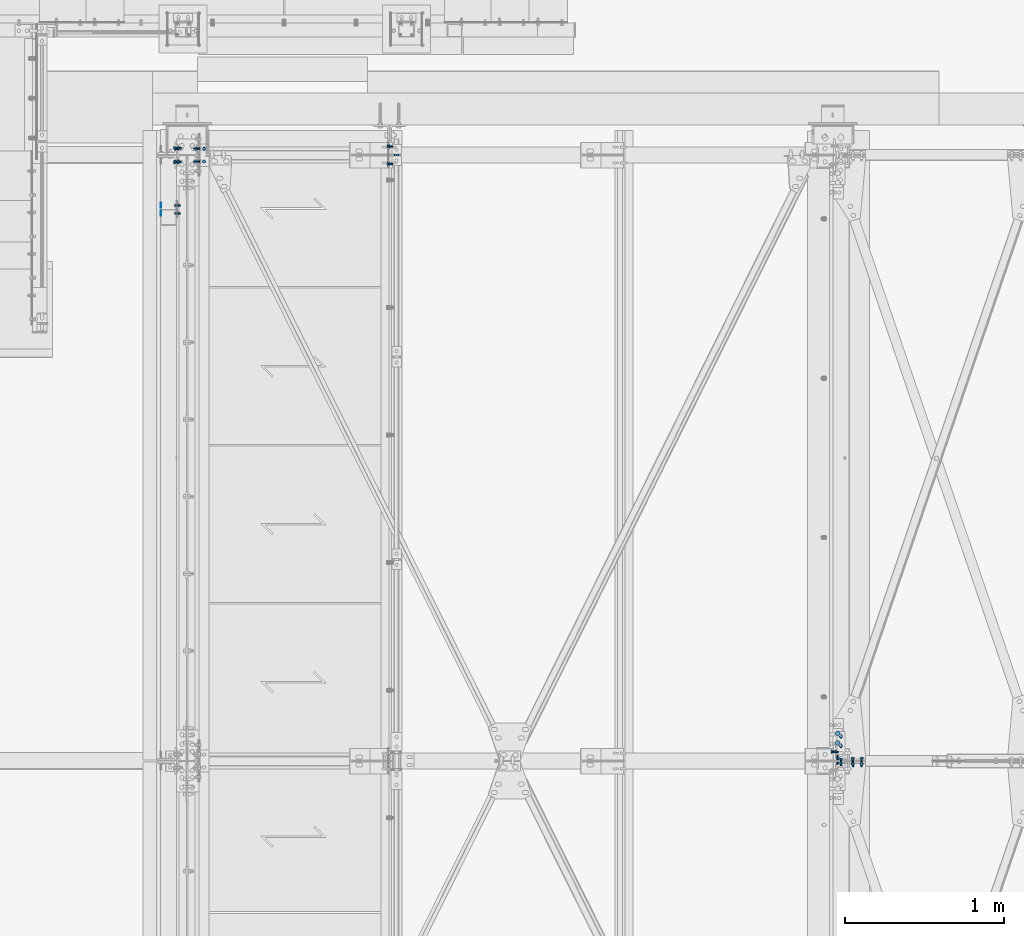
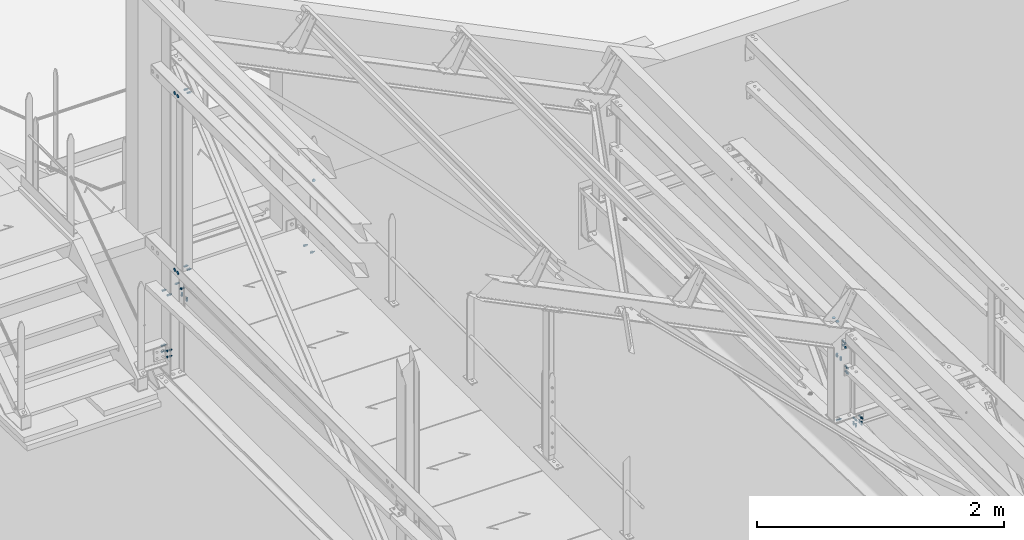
# One storey, part 334 of 362: 24 mechanical fasteners.
"""IFC2X3 building model written with IfcOpenShell, lengths in millimetres."""

from ifc_helpers import new_model, si_unit, frame, frame_2d, origin_with_axes, origin_2d_with_axis, place, context, subcontext, project, spatial, polyline, circle_curve, parameter, trimmed, segment, composite_curve, circle, outline, extrude, source, transform, mapped, material, type_object, element, save


model = new_model("IFC2X3")

# Units and contexts
model_context = context("Model", 3, precision=1e-05, world=origin_with_axes())
body_context = subcontext(model_context, "Body", "Model", "MODEL_VIEW")
ifc_project = project(units=[si_unit("LENGTHUNIT", "METRE", prefix="MILLI"), si_unit("AREAUNIT", "SQUARE_METRE"), si_unit("VOLUMEUNIT", "CUBIC_METRE"), si_unit("MASSUNIT", "GRAM", prefix="KILO"), si_unit("TIMEUNIT", "SECOND"), si_unit("PLANEANGLEUNIT", "RADIAN"), si_unit("SOLIDANGLEUNIT", "STERADIAN"), si_unit("THERMODYNAMICTEMPERATUREUNIT", "DEGREE_CELSIUS"), si_unit("LUMINOUSINTENSITYUNIT", "LUMEN")], contexts=[model_context])

# Site, building, storey
site_placement = place(None, origin_with_axes())
site = spatial("IfcSite", under=ifc_project, at=site_placement, Name="Undefined", CompositionType="ELEMENT")
building_placement = place(site_placement, origin_with_axes())
building = spatial("IfcBuilding", under=site, at=building_placement, Name="Undefined", CompositionType="ELEMENT")
storey_placement = place(building_placement, origin_with_axes())
storey = spatial("IfcBuildingStorey", under=building, at=storey_placement, Name="Undefined", CompositionType="ELEMENT", Elevation=0.0)

# Mechanical fasteners
ifc_material_1 = material(Name="6.8")
mechanical_fastener_type = type_object("IfcMechanicalFastenerType", Name="Bolt assembly")
shared_shape_1 = source(origin_with_axes(), body_context, "Body", "SweptSolid", [
    extrude(circle(Radius=15.0, at=origin_2d_with_axis()), frame((0.0, 0.0, 0.0), z_axis=(0.0, 1.0, 0.0), x_axis=(1.0, 0.0, 0.0)), (0.0, 0.0, 1.0), 4.1),
])
mechanical_fastener_1_placement = place(storey_placement, frame((38360.0, 11573.5, 8550.0), z_axis=(1.0, 0.0, 0.0), x_axis=(0.0, -1.0, 0.0)))
element("IfcMechanicalFastener", 1, at=mechanical_fastener_1_placement, inside=storey, type_object=mechanical_fastener_type, material=ifc_material_1, Name="Bolt assembly", NominalDiameter=30.0, NominalLength=4.0, context=body_context, shape_type="MappedRepresentation", body=[
    mapped(shared_shape_1, transform((0.0, 0.0, 0.0))),
    mapped(shared_shape_1, transform((60.0, 0.0, 0.0))),
])
mechanical_fastener_2_placement = place(storey_placement, frame((34113.4999999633, 14859.9999987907, 10245.0), z_axis=(0.0, -1.0, 0.0), x_axis=(0.0, 0.0, -1.0)))
element("IfcMechanicalFastener", 2, at=mechanical_fastener_2_placement, inside=storey, type_object=mechanical_fastener_type, material=ifc_material_1, Name="Bolt assembly", NominalDiameter=30.0, NominalLength=4.0, context=body_context, shape_type="MappedRepresentation", body=[
    mapped(shared_shape_1, transform((0.0, 0.0, -25.0))),
    mapped(shared_shape_1, transform((0.0, 0.0, 25.0))),
])
shared_shape_2 = source(origin_with_axes(), body_context, "Body", "SweptSolid", [
    extrude(circle(Radius=14.0, at=origin_2d_with_axis()), frame((0.0, -5.00000000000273, 0.0), z_axis=(0.0, 1.0, 0.0), x_axis=(1.0, 0.0, 0.0)), (0.0, 0.0, 1.0), 10.1),
])
mechanical_fastener_3_placement = place(storey_placement, frame((35593.9917225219, 15200.0000005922, 8673.79999656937), z_axis=(0.0, 0.0, 1.0), x_axis=(-1.0, 0.0, 0.0)))
element("IfcMechanicalFastener", 3, at=mechanical_fastener_3_placement, inside=storey, type_object=mechanical_fastener_type, material=ifc_material_1, Name="Bolt assembly", NominalDiameter=27.0, NominalLength=10.0, context=body_context, shape_type="MappedRepresentation", body=[
    mapped(shared_shape_2, transform((0.0, 0.0, 0.0))),
])
ifc_material_2 = material(Name="8.8-SB-ZINGUE")
shared_shape_3 = source(origin_with_axes(), body_context, "Body", "SweptSolid", [
    extrude(circle(Radius=7.0, at=origin_2d_with_axis()), frame((0.0, -4.90000000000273, 0.0), z_axis=(0.0, 1.0, 0.0), x_axis=(1.0, 0.0, 0.0)), (0.0, 0.0, 1.0), 5.0),
    extrude(circle(Radius=7.0, at=origin_2d_with_axis()), frame((0.0, -0.100011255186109, 0.0), z_axis=(0.0, 1.0, 0.0), x_axis=(1.0, 0.0, 0.0)), (0.0, 0.0, 1.0), 7.1),
    extrude(outline(polyline([(10.39230484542, 0.0), (5.19615242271, 9.00000000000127), (-5.19615242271, 9.00000000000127), (-10.39230484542, 0.0), (-5.19615242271, -9.00000000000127), (5.19615242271, -9.00000000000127), (10.39230484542, 0.0)])), frame((0.0, -12.9200004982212, 0.0), z_axis=(0.0, 1.0, 0.0), x_axis=(1.0, 0.0, 0.0)), (0.0, 0.0, 1.0), 7.92),
    extrude(circle(Radius=6.0, at=origin_2d_with_axis()), frame((0.0, -5.00000000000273, 0.0), z_axis=(0.0, 1.0, 0.0), x_axis=(1.0, 0.0, 0.0)), (0.0, 0.0, 1.0), 30.0),
    extrude(outline(polyline([(11.5008173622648, 0.0), (5.7504086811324, 9.96000000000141), (-5.7504086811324, 9.96000000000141), (-11.5008173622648, 0.0), (-5.7504086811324, -9.96000000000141), (5.7504086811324, -9.96000000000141), (11.5008173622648, 0.0)])), frame((0.0, 7.0, 0.0), z_axis=(0.0, 1.0, 0.0), x_axis=(1.0, 0.0, 0.0)), (0.0, 0.0, 1.0), 7.92),
])
for number, where, z_axis, x_axis, name in (
    (4, (34386.5000576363, 15240.0000000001, 7949.99999999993), (0.0, -1.0, 0.0), (-1.0, 0.0, 0.0), "Bolt assembly"),
    (5, (34386.5000576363, 15160.0, 7949.99999999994), (0.0, -1.0, 0.0), (-1.0, 0.0, 0.0), "Bolt assembly"),
):
    element("IfcMechanicalFastener", number, at=place(storey_placement, frame(where, z_axis=z_axis, x_axis=x_axis)), inside=storey, type_object=mechanical_fastener_type, material=ifc_material_2, Name=name, NominalDiameter=12.0, NominalLength=30.0, context=body_context, shape_type="MappedRepresentation", body=[
        mapped(shared_shape_3, transform((0.0, 0.0, 0.0))),
    ])
shared_shape_4 = source(origin_with_axes(), body_context, "Body", "SweptSolid", [
    extrude(circle(Radius=7.0, at=origin_2d_with_axis()), frame((0.0, -6.5, 0.0), z_axis=(0.0, 1.0, 0.0), x_axis=(1.0, 0.0, 0.0)), (0.0, 0.0, 1.0), 6.1),
    extrude(outline(polyline([(10.39230484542, 0.0), (5.19615242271, 9.00000000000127), (-5.19615242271, 9.00000000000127), (-10.39230484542, 0.0), (-5.19615242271, -9.00000000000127), (5.19615242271, -9.00000000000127), (10.39230484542, 0.0)])), frame((0.0, -14.42, 0.0), z_axis=(0.0, 1.0, 0.0), x_axis=(1.0, 0.0, 0.0)), (0.0, 0.0, 1.0), 7.92),
    extrude(circle(Radius=6.0, at=origin_2d_with_axis()), frame((0.0, -6.5, 0.0), z_axis=(0.0, 1.0, 0.0), x_axis=(1.0, 0.0, 0.0)), (0.0, 0.0, 1.0), 30.0),
    extrude(outline(polyline([(11.5008173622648, 0.0), (5.7504086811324, 9.96000000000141), (-5.7504086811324, 9.96000000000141), (-11.5008173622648, 0.0), (-5.7504086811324, -9.96000000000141), (5.7504086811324, -9.96000000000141), (11.5008173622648, 0.0)])), frame((0.0, -0.5, 0.0), z_axis=(0.0, 1.0, 0.0), x_axis=(1.0, 0.0, 0.0)), (0.0, 0.0, 1.0), 7.92),
])
for number, where, z_axis, x_axis, name in (
    (6, (35546.4917140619, 15254.9999906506, 8014.99999999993), (0.0, 0.0, 1.0), (0.0, -1.0, 0.0), "Bolt assembly"),
    (7, (35546.4917140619, 15144.9999999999, 8014.99999999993), (0.0, 0.0, -1.0), (0.0, 1.0, 0.0), "Bolt assembly"),
):
    element("IfcMechanicalFastener", number, at=place(storey_placement, frame(where, z_axis=z_axis, x_axis=x_axis)), inside=storey, type_object=mechanical_fastener_type, material=ifc_material_2, Name=name, NominalDiameter=12.0, NominalLength=30.0, context=body_context, shape_type="MappedRepresentation", body=[
        mapped(shared_shape_4, transform((0.0, 0.0, 0.0))),
    ])
shared_shape_5 = source(origin_with_axes(), body_context, "Body", "SweptSolid", [
    extrude(circle(Radius=7.0, at=origin_2d_with_axis()), frame((0.0, -0.0999426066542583, 0.0), z_axis=(0.0, 1.0, 0.0), x_axis=(1.0, 0.0, 0.0)), (0.0, 0.0, 1.0), 8.6),
    extrude(circle(Radius=7.0, at=origin_2d_with_axis()), frame((0.0, -4.8997748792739, 0.0), z_axis=(0.0, 1.0, 0.0), x_axis=(1.0, 0.0, 0.0)), (0.0, 0.0, 1.0), 5.0),
    extrude(outline(polyline([(10.39230484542, 0.0), (5.19615242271, 9.00000000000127), (-5.19615242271, 9.00000000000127), (-10.39230484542, 0.0), (-5.19615242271, -9.00000000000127), (5.19615242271, -9.00000000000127), (10.39230484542, 0.0)])), frame((0.0, -12.9197748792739, 0.0), z_axis=(0.0, 1.0, 0.0), x_axis=(1.0, 0.0, 0.0)), (0.0, 0.0, 1.0), 7.92),
    extrude(circle(Radius=6.0, at=origin_2d_with_axis()), frame((0.0, -4.9997748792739, 0.0), z_axis=(0.0, 1.0, 0.0), x_axis=(1.0, 0.0, 0.0)), (0.0, 0.0, 1.0), 30.0),
    extrude(outline(polyline([(11.5008173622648, 0.0), (5.7504086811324, 9.96000000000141), (-5.7504086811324, 9.96000000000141), (-11.5008173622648, 0.0), (-5.7504086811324, -9.96000000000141), (5.7504086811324, -9.96000000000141), (11.5008173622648, 0.0)])), frame((0.0, 8.50005763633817, 0.0), z_axis=(0.0, 1.0, 0.0), x_axis=(1.0, 0.0, 0.0)), (0.0, 0.0, 1.0), 7.92),
])
for number, where, z_axis, x_axis, name in (
    (8, (34346.5000576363, 15160.0000009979, 8069.99999999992), (0.0, 1.0, 0.0), (0.0, 0.0, -1.0), "Bolt assembly"),
    (9, (34346.5000576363, 15240.000000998, 8069.99999999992), (0.0, 1.0, 0.0), (0.0, 0.0, -1.0), "Bolt assembly"),
):
    element("IfcMechanicalFastener", number, at=place(storey_placement, frame(where, z_axis=z_axis, x_axis=x_axis)), inside=storey, type_object=mechanical_fastener_type, material=ifc_material_2, Name=name, NominalDiameter=12.0, NominalLength=30.0, context=body_context, shape_type="MappedRepresentation", body=[
        mapped(shared_shape_5, transform((0.0, 0.0, 0.0))),
    ])
shared_shape_6 = source(origin_with_axes(), body_context, "Body", "SweptSolid", [
    extrude(circle(Radius=7.0, at=origin_2d_with_axis()), frame((0.0, -3.90012822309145, 0.0), z_axis=(0.0, 1.0, 0.0), x_axis=(1.0, 0.0, 0.0)), (0.0, 0.0, 1.0), 4.0),
    extrude(outline(composite_curve([segment(polyline([(-7.0, 7.0), (7.0, 7.0)]), True, "CONTINUOUS"), segment(trimmed(circle_curve(frame_2d((7.0, 0.0), x_axis=(0.0, 1.0)), 7.0), [parameter(0.0)], [parameter(3.14159265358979)], False, "PARAMETER"), True, "CONTINUOUS"), segment(polyline([(7.0, -7.0), (-7.0, -7.0)]), True, "CONTINUOUS"), segment(trimmed(circle_curve(frame_2d((-7.0, 0.0), x_axis=(0.0, -1.0)), 7.0), [parameter(0.0)], [parameter(3.14159265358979)], False, "PARAMETER"), True, "DISCONTINUOUS")], self_intersect=False)), frame((0.0, -0.100011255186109, 0.0), z_axis=(0.0, 1.0, 0.0), x_axis=(1.0, 0.0, 0.0)), (0.0, 0.0, 1.0), 6.1),
    extrude(outline(polyline([(10.39230484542, 0.0), (5.19615242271, 9.00000000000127), (-5.19615242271, 9.00000000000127), (-10.39230484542, 0.0), (-5.19615242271, -9.00000000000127), (5.19615242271, -9.00000000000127), (10.39230484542, 0.0)])), frame((0.0, -11.9201282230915, 0.0), z_axis=(0.0, 1.0, 0.0), x_axis=(1.0, 0.0, 0.0)), (0.0, 0.0, 1.0), 7.92),
    extrude(circle(Radius=6.0, at=origin_2d_with_axis()), frame((0.0, -4.00012822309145, 0.0), z_axis=(0.0, 1.0, 0.0), x_axis=(1.0, 0.0, 0.0)), (0.0, 0.0, 1.0), 30.0),
    extrude(circle(Radius=10.8, at=origin_2d_with_axis()), frame((0.0, 6.0, 0.0), z_axis=(0.0, 1.0, 0.0), x_axis=(1.0, 0.0, 0.0)), (0.0, 0.0, 1.0), 3.96),
    extrude(outline(polyline([(11.5008173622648, 0.0), (5.7504086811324, 9.96000000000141), (-5.7504086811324, 9.96000000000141), (-11.5008173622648, 0.0), (-5.7504086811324, -9.96000000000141), (5.7504086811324, -9.96000000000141), (11.5008173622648, 0.0)])), frame((0.0, 9.9600084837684, 0.0), z_axis=(0.0, 1.0, 0.0), x_axis=(1.0, 0.0, 0.0)), (0.0, 0.0, 1.0), 7.92),
])
mechanical_fastener_4_placement = place(storey_placement, frame((38380.0, 11554.9555719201, 8188.12886622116), z_axis=(1.0, 0.0, 0.0), x_axis=(0.0, -0.999506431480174, 0.0314148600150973)))
element("IfcMechanicalFastener", 10, at=mechanical_fastener_4_placement, inside=storey, type_object=mechanical_fastener_type, material=ifc_material_2, Name="Bolt assembly", NominalDiameter=12.0, NominalLength=30.0, context=body_context, shape_type="MappedRepresentation", body=[
    mapped(shared_shape_6, transform((0.0, 0.0, 0.0))),
    mapped(shared_shape_6, transform((60.0, 0.0, 0.0))),
])
shared_shape_7 = source(origin_with_axes(), body_context, "Body", "SweptSolid", [
    extrude(circle(Radius=7.0, at=origin_2d_with_axis()), frame((0.0, -2.7999999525, 0.0), z_axis=(0.0, 1.0, 0.0), x_axis=(1.0, 0.0, 0.0)), (0.0, 0.0, 1.0), 5.6),
    extrude(circle(Radius=7.0, at=origin_2d_with_axis()), frame((0.0, -9.40000000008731, 0.0), z_axis=(0.0, 1.0, 0.0), x_axis=(1.0, 0.0, 0.0)), (0.0, 0.0, 1.0), 6.0),
    extrude(circle(Radius=7.0, at=origin_2d_with_axis()), frame((0.0, 3.40000111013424, 0.0), z_axis=(0.0, 1.0, 0.0), x_axis=(1.0, 0.0, 0.0)), (0.0, 0.0, 1.0), 6.1),
    extrude(outline(polyline([(10.39230484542, 0.0), (5.19615242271, 9.00000000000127), (-5.19615242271, 9.00000000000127), (-10.39230484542, 0.0), (-5.19615242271, -9.00000000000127), (5.19615242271, -9.00000000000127), (10.39230484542, 0.0)])), frame((0.0, -17.4200000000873, 0.0), z_axis=(0.0, 1.0, 0.0), x_axis=(1.0, 0.0, 0.0)), (0.0, 0.0, 1.0), 7.92),
    extrude(circle(Radius=6.0, at=origin_2d_with_axis()), frame((0.0, -9.50000000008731, 0.0), z_axis=(0.0, 1.0, 0.0), x_axis=(1.0, 0.0, 0.0)), (0.0, 0.0, 1.0), 40.0),
    extrude(outline(polyline([(11.5008173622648, 0.0), (5.7504086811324, 9.96000000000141), (-5.7504086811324, 9.96000000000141), (-11.5008173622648, 0.0), (-5.7504086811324, -9.96000000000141), (5.7504086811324, -9.96000000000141), (11.5008173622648, 0.0)])), frame((0.0, 9.50000815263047, 0.0), z_axis=(0.0, 1.0, 0.0), x_axis=(1.0, 0.0, 0.0)), (0.0, 0.0, 1.0), 7.92),
])
mechanical_fastener_5_placement = place(storey_placement, frame((38380.0000000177, 11400.0, 8107.99910819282), z_axis=(1.0, 0.0, 0.0), x_axis=(0.0, 0.0, 1.0)))
element("IfcMechanicalFastener", 11, at=mechanical_fastener_5_placement, inside=storey, type_object=mechanical_fastener_type, material=ifc_material_2, Name="Bolt assembly", NominalDiameter=12.0, NominalLength=40.0, context=body_context, shape_type="MappedRepresentation", body=[
    mapped(shared_shape_7, transform((0.0, 0.0, 0.0))),
    mapped(shared_shape_7, transform((49.9999999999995, 0.0, -3.63797880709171e-12))),
])
shared_shape_8 = source(origin_with_axes(), body_context, "Body", "SweptSolid", [
    extrude(circle(Radius=7.0, at=origin_2d_with_axis()), frame((0.0, -2.80010483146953, 0.0), z_axis=(0.0, 1.0, 0.0), x_axis=(1.0, 0.0, 0.0)), (0.0, 0.0, 1.0), 5.6),
    extrude(circle(Radius=7.0, at=origin_2d_with_axis()), frame((0.0, 3.3998951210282, 0.0), z_axis=(0.0, 1.0, 0.0), x_axis=(1.0, 0.0, 0.0)), (0.0, 0.0, 1.0), 10.1),
    extrude(circle(Radius=7.0, at=origin_2d_with_axis()), frame((0.0, -13.4001048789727, 0.0), z_axis=(0.0, 1.0, 0.0), x_axis=(1.0, 0.0, 0.0)), (0.0, 0.0, 1.0), 10.0),
    extrude(outline(polyline([(10.39230484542, 0.0), (5.19615242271, 9.00000000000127), (-5.19615242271, 9.00000000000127), (-10.39230484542, 0.0), (-5.19615242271, -9.00000000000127), (5.19615242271, -9.00000000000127), (10.39230484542, 0.0)])), frame((0.0, -21.4201048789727, 0.0), z_axis=(0.0, 1.0, 0.0), x_axis=(1.0, 0.0, 0.0)), (0.0, 0.0, 1.0), 7.92),
    extrude(circle(Radius=6.0, at=origin_2d_with_axis()), frame((0.0, -13.5000574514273, 0.0), z_axis=(0.0, 1.0, 0.0), x_axis=(1.0, 0.0, 0.0)), (0.0, 0.0, 1.0), 50.0),
    extrude(outline(polyline([(11.5008173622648, 0.0), (5.7504086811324, 9.96000000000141), (-5.7504086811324, 9.96000000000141), (-11.5008173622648, 0.0), (-5.7504086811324, -9.96000000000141), (5.7504086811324, -9.96000000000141), (11.5008173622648, 0.0)])), frame((0.0, 13.4998951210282, 0.0), z_axis=(0.0, 1.0, 0.0), x_axis=(1.0, 0.0, 0.0)), (0.0, 0.0, 1.0), 7.92),
])
mechanical_fastener_6_placement = place(storey_placement, frame((38360.0, 11400.000104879, 8370.0), z_axis=(-1.0, 0.0, 0.0), x_axis=(0.0, 0.0, 1.0)))
element("IfcMechanicalFastener", 12, at=mechanical_fastener_6_placement, inside=storey, type_object=mechanical_fastener_type, material=ifc_material_2, Name="Bolt assembly", NominalDiameter=12.0, NominalLength=50.0, context=body_context, shape_type="MappedRepresentation", body=[
    mapped(shared_shape_8, transform((0.0, 0.0, 0.0))),
    mapped(shared_shape_8, transform((40.0, 0.0, 0.0))),
])
shared_shape_9 = source(origin_with_axes(), body_context, "Body", "SweptSolid", [
    extrude(circle(Radius=15.0, at=origin_2d_with_axis()), frame((0.0, -0.000130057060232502, 0.0), z_axis=(0.0, 1.0, 0.0), x_axis=(1.0, 0.0, 0.0)), (0.0, 0.0, 1.0), 4.1),
])
mechanical_fastener_7_placement = place(storey_placement, frame((34113.5001162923, 14859.9999987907, 8500.0), z_axis=(0.0, 1.0, 0.0), x_axis=(0.0, 0.0, 1.0)))
element("IfcMechanicalFastener", 13, at=mechanical_fastener_7_placement, inside=storey, type_object=mechanical_fastener_type, material=ifc_material_1, Name="Bolt assembly", NominalDiameter=30.0, NominalLength=4.0, context=body_context, shape_type="MappedRepresentation", body=[
    mapped(shared_shape_9, transform((0.0, 0.0, -25.0))),
    mapped(shared_shape_9, transform((0.0, 0.0, 25.0))),
])
shared_shape_10 = source(origin_with_axes(), body_context, "Body", "SweptSolid", [
    extrude(circle(Radius=7.0, at=origin_2d_with_axis()), frame((0.0, -0.10007666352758, 0.0), z_axis=(0.0, 1.0, 0.0), x_axis=(1.0, 0.0, 0.0)), (0.0, 0.0, 1.0), 8.6),
    extrude(circle(Radius=7.0, at=origin_2d_with_axis()), frame((0.0, -3.89999843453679, 0.0), z_axis=(0.0, 1.0, 0.0), x_axis=(1.0, 0.0, 0.0)), (0.0, 0.0, 1.0), 4.0),
    extrude(outline(polyline([(10.39230484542, 0.0), (5.19615242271, 9.00000000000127), (-5.19615242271, 9.00000000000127), (-10.39230484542, 0.0), (-5.19615242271, -9.00000000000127), (5.19615242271, -9.00000000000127), (10.39230484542, 0.0)])), frame((0.0, -11.9199984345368, 0.0), z_axis=(0.0, 1.0, 0.0), x_axis=(1.0, 0.0, 0.0)), (0.0, 0.0, 1.0), 7.92),
    extrude(circle(Radius=6.0, at=origin_2d_with_axis()), frame((0.0, -3.99999923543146, 0.0), z_axis=(0.0, 1.0, 0.0), x_axis=(1.0, 0.0, 0.0)), (0.0, 0.0, 1.0), 30.0),
    extrude(outline(polyline([(11.5008173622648, 0.0), (5.7504086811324, 9.96000000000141), (-5.7504086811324, 9.96000000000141), (-11.5008173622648, 0.0), (-5.7504086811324, -9.96000000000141), (5.7504086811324, -9.96000000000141), (11.5008173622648, 0.0)])), frame((0.0, 8.49988372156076, 0.0), z_axis=(0.0, 1.0, 0.0), x_axis=(1.0, 0.0, 0.0)), (0.0, 0.0, 1.0), 7.92),
])
for number, where, z_axis, x_axis, name in (
    (14, (34213.5001162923, 15240.0, 8046.29862932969), (0.0, 0.0, -1.0), (0.0, 1.0, 0.0), "Bolt assembly"),
    (15, (34213.5001162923, 15160.0, 8048.81295509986), (0.0, 0.0, 1.0), (0.0, -1.0, 0.0), "Bolt assembly"),
):
    element("IfcMechanicalFastener", number, at=place(storey_placement, frame(where, z_axis=z_axis, x_axis=x_axis)), inside=storey, type_object=mechanical_fastener_type, material=ifc_material_2, Name=name, NominalDiameter=12.0, NominalLength=30.0, context=body_context, shape_type="MappedRepresentation", body=[
        mapped(shared_shape_10, transform((0.0, 0.0, 0.0))),
    ])
shared_shape_11 = source(origin_with_axes(), body_context, "Body", "SweptSolid", [
    extrude(circle(Radius=7.0, at=origin_2d_with_axis()), frame((0.0, -3.90012822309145, 0.0), z_axis=(0.0, 1.0, 0.0), x_axis=(1.0, 0.0, 0.0)), (0.0, 0.0, 1.0), 4.0),
    extrude(circle(Radius=7.0, at=origin_2d_with_axis()), frame((0.0, -0.100259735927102, 0.0), z_axis=(0.0, 1.0, 0.0), x_axis=(1.0, 0.0, 0.0)), (0.0, 0.0, 1.0), 5.1),
    extrude(outline(polyline([(10.39230484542, 0.0), (5.19615242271, 9.00000000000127), (-5.19615242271, 9.00000000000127), (-10.39230484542, 0.0), (-5.19615242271, -9.00000000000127), (5.19615242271, -9.00000000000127), (10.39230484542, 0.0)])), frame((0.0, -11.9201282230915, 0.0), z_axis=(0.0, 1.0, 0.0), x_axis=(1.0, 0.0, 0.0)), (0.0, 0.0, 1.0), 7.92),
    extrude(circle(Radius=6.0, at=origin_2d_with_axis()), frame((0.0, -4.00012822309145, 0.0), z_axis=(0.0, 1.0, 0.0), x_axis=(1.0, 0.0, 0.0)), (0.0, 0.0, 1.0), 30.0),
    extrude(outline(polyline([(11.5008173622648, 0.0), (5.7504086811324, 9.96000000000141), (-5.7504086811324, 9.96000000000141), (-11.5008173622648, 0.0), (-5.7504086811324, -9.96000000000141), (5.7504086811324, -9.96000000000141), (11.5008173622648, 0.0)])), frame((0.0, 4.99977803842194, 0.0), z_axis=(0.0, 1.0, 0.0), x_axis=(1.0, 0.0, 0.0)), (0.0, 0.0, 1.0), 7.92),
])
mechanical_fastener_8_placement = place(storey_placement, frame((34213.5001162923, 14859.9999987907, 8500.0), z_axis=(0.0, 1.0, 0.0), x_axis=(0.0, 0.0, 1.0)))
element("IfcMechanicalFastener", 16, at=mechanical_fastener_8_placement, inside=storey, type_object=mechanical_fastener_type, material=ifc_material_2, Name="Bolt assembly", NominalDiameter=12.0, NominalLength=30.0, context=body_context, shape_type="MappedRepresentation", body=[
    mapped(shared_shape_11, transform((0.0, 0.0, -25.0))),
    mapped(shared_shape_11, transform((0.0, 0.0, 25.0))),
])
shared_shape_12 = source(origin_with_axes(), body_context, "Body", "SweptSolid", [
    extrude(circle(Radius=7.0, at=origin_2d_with_axis()), frame((0.0, -3.89999843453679, 0.0), z_axis=(0.0, 1.0, 0.0), x_axis=(1.0, 0.0, 0.0)), (0.0, 0.0, 1.0), 4.0),
    extrude(circle(Radius=7.0, at=origin_2d_with_axis()), frame((0.0, -0.10007666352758, 0.0), z_axis=(0.0, 1.0, 0.0), x_axis=(1.0, 0.0, 0.0)), (0.0, 0.0, 1.0), 5.1),
    extrude(outline(polyline([(10.39230484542, 0.0), (5.19615242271, 9.00000000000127), (-5.19615242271, 9.00000000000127), (-10.39230484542, 0.0), (-5.19615242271, -9.00000000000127), (5.19615242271, -9.00000000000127), (10.39230484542, 0.0)])), frame((0.0, -11.9199984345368, 0.0), z_axis=(0.0, 1.0, 0.0), x_axis=(1.0, 0.0, 0.0)), (0.0, 0.0, 1.0), 7.92),
    extrude(circle(Radius=6.0, at=origin_2d_with_axis()), frame((0.0, -3.99999923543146, 0.0), z_axis=(0.0, 1.0, 0.0), x_axis=(1.0, 0.0, 0.0)), (0.0, 0.0, 1.0), 30.0),
    extrude(outline(polyline([(11.5008173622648, 0.0), (5.7504086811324, 9.96000000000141), (-5.7504086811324, 9.96000000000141), (-11.5008173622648, 0.0), (-5.7504086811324, -9.96000000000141), (5.7504086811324, -9.96000000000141), (11.5008173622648, 0.0)])), frame((0.0, 4.99993643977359, 0.0), z_axis=(0.0, 1.0, 0.0), x_axis=(1.0, 0.0, 0.0)), (0.0, 0.0, 1.0), 7.92),
])
mechanical_fastener_9_placement = place(storey_placement, frame((34213.4999999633, 14859.9999987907, 10245.0), z_axis=(0.0, -1.0, 0.0), x_axis=(0.0, 0.0, -1.0)))
element("IfcMechanicalFastener", 17, at=mechanical_fastener_9_placement, inside=storey, type_object=mechanical_fastener_type, material=ifc_material_2, Name="Bolt assembly", NominalDiameter=12.0, NominalLength=30.0, context=body_context, shape_type="MappedRepresentation", body=[
    mapped(shared_shape_12, transform((0.0, 0.0, -25.0))),
    mapped(shared_shape_12, transform((0.0, 0.0, 25.0))),
])
shared_shape_13 = source(origin_with_axes(), body_context, "Body", "SweptSolid", [
    extrude(circle(Radius=6.0, at=origin_2d_with_axis()), frame((0.0, -6.19999893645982, 0.0), z_axis=(0.0, 1.0, 0.0), x_axis=(1.0, 0.0, 0.0)), (0.0, 0.0, 1.0), 6.3),
    extrude(circle(Radius=6.0, at=origin_2d_with_axis()), frame((0.0, -0.10007666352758, 0.0), z_axis=(0.0, 1.0, 0.0), x_axis=(1.0, 0.0, 0.0)), (0.0, 0.0, 1.0), 6.1),
    extrude(outline(polyline([(9.81495457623, 0.0), (4.907477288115, 8.5000000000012), (-4.907477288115, 8.5000000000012), (-9.81495457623, 0.0), (-4.907477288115, -8.5000000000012), (4.907477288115, -8.5000000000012), (9.81495457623, 0.0)])), frame((0.0, -13.7999989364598, 0.0), z_axis=(0.0, 1.0, 0.0), x_axis=(1.0, 0.0, 0.0)), (0.0, 0.0, 1.0), 7.5),
    extrude(circle(Radius=5.0, at=origin_2d_with_axis()), frame((0.0, -6.29999893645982, 0.0), z_axis=(0.0, 1.0, 0.0), x_axis=(1.0, 0.0, 0.0)), (0.0, 0.0, 1.0), 30.0),
    extrude(outline(polyline([(9.23760430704, 0.0), (4.61880215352, 8.00000000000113), (-4.61880215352, 8.00000000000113), (-9.23760430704, 0.0), (-4.61880215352, -8.00000000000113), (4.61880215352, -8.00000000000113), (9.23760430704, 0.0)])), frame((0.0, 5.99989660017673, 0.0), z_axis=(0.0, 1.0, 0.0), x_axis=(1.0, 0.0, 0.0)), (0.0, 0.0, 1.0), 8.4),
])
mechanical_fastener_10_placement = place(storey_placement, frame((38510.0, 11398.1157730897, 7571.74048553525), z_axis=(0.0, -0.999506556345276, 0.031410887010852), x_axis=(-1.0, 0.0, 0.0)))
element("IfcMechanicalFastener", 18, at=mechanical_fastener_10_placement, inside=storey, type_object=mechanical_fastener_type, material=ifc_material_1, Name="Bolt assembly", NominalDiameter=10.0, NominalLength=30.0, context=body_context, shape_type="MappedRepresentation", body=[
    mapped(shared_shape_13, transform((0.0, 3.18323145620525e-11, -16.9999999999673))),
    mapped(shared_shape_13, transform((55.0, 8.18545231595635e-12, -16.9999999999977))),
    mapped(shared_shape_13, transform((0.0, -3.18323145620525e-11, 16.9999999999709))),
    mapped(shared_shape_13, transform((55.0, -7.27595761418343e-12, 16.9999999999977))),
])
shared_shape_14 = source(origin_with_axes(), body_context, "Body", "SweptSolid", [
    extrude(circle(Radius=7.0, at=origin_2d_with_axis()), frame((0.0, -2.20000854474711, 0.0), z_axis=(0.0, 1.0, 0.0), x_axis=(1.0, 0.0, 0.0)), (0.0, 0.0, 1.0), 4.4),
    extrude(circle(Radius=7.0, at=origin_2d_with_axis()), frame((0.0, 2.90000527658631, 0.0), z_axis=(0.0, 1.0, 0.0), x_axis=(1.0, 0.0, 0.0)), (0.0, 0.0, 1.0), 10.1),
    extrude(circle(Radius=7.0, at=origin_2d_with_axis()), frame((0.0, -12.9008585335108, 0.0), z_axis=(0.0, 1.0, 0.0), x_axis=(1.0, 0.0, 0.0)), (0.0, 0.0, 1.0), 10.0),
    extrude(outline(polyline([(10.39230484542, 0.0), (5.19615242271, 9.00000000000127), (-5.19615242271, 9.00000000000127), (-10.39230484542, 0.0), (-5.19615242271, -9.00000000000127), (5.19615242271, -9.00000000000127), (10.39230484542, 0.0)])), frame((0.0, -20.9208585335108, 0.0), z_axis=(0.0, 1.0, 0.0), x_axis=(1.0, 0.0, 0.0)), (0.0, 0.0, 1.0), 7.92),
    extrude(circle(Radius=6.0, at=origin_2d_with_axis()), frame((0.0, -13.0008585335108, 0.0), z_axis=(0.0, 1.0, 0.0), x_axis=(1.0, 0.0, 0.0)), (0.0, 0.0, 1.0), 50.0),
    extrude(outline(polyline([(11.5008173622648, 0.0), (5.7504086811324, 9.96000000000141), (-5.7504086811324, 9.96000000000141), (-11.5008173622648, 0.0), (-5.7504086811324, -9.96000000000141), (5.7504086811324, -9.96000000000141), (11.5008173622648, 0.0)])), frame((0.0, 13.0000006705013, 0.0), z_axis=(0.0, 1.0, 0.0), x_axis=(1.0, 0.0, 0.0)), (0.0, 0.0, 1.0), 7.92),
])
mechanical_fastener_11_placement = place(storey_placement, frame((38510.0, 11399.6858849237, 7621.71585892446), z_axis=(7.58071938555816e-11, 0.0314107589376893, 0.999506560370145), x_axis=(-1.0, 0.0, 0.0)))
element("IfcMechanicalFastener", 19, at=mechanical_fastener_11_placement, inside=storey, type_object=mechanical_fastener_type, material=ifc_material_2, Name="Bolt assembly", NominalDiameter=12.0, NominalLength=50.0, context=body_context, shape_type="MappedRepresentation", body=[
    mapped(shared_shape_14, transform((0.0, 0.0, 0.0))),
    mapped(shared_shape_14, transform((55.0000000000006, -1.81898940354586e-10, 0.0))),
])
shared_shape_15 = source(origin_with_axes(), body_context, "Body", "SweptSolid", [
    extrude(circle(Radius=7.0, at=origin_2d_with_axis()), frame((0.0, -4.59999980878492, 0.0), z_axis=(0.0, 1.0, 0.0), x_axis=(1.0, 0.0, 0.0)), (0.0, 0.0, 1.0), 9.4),
    extrude(circle(Radius=7.0, at=origin_2d_with_axis()), frame((0.0, 4.9000000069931, 0.0), z_axis=(0.0, 1.0, 0.0), x_axis=(1.0, 0.0, 0.0)), (0.0, 0.0, 1.0), 10.1),
    extrude(outline(polyline([(10.39230484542, 0.0), (5.19615242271, 9.00000000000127), (-5.19615242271, 9.00000000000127), (-10.39230484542, 0.0), (-5.19615242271, -9.00000000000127), (5.19615242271, -9.00000000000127), (10.39230484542, 0.0)])), frame((0.0, -12.6199998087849, 0.0), z_axis=(0.0, 1.0, 0.0), x_axis=(1.0, 0.0, 0.0)), (0.0, 0.0, 1.0), 7.92),
    extrude(circle(Radius=6.0, at=origin_2d_with_axis()), frame((0.0, -4.69999899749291, 0.0), z_axis=(0.0, 1.0, 0.0), x_axis=(1.0, 0.0, 0.0)), (0.0, 0.0, 1.0), 40.0),
    extrude(outline(polyline([(11.5008173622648, 0.0), (5.7504086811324, 9.96000000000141), (-5.7504086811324, 9.96000000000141), (-11.5008173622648, 0.0), (-5.7504086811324, -9.96000000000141), (5.7504086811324, -9.96000000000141), (11.5008173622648, 0.0)])), frame((0.0, 15.0000000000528, 0.0), z_axis=(0.0, 1.0, 0.0), x_axis=(1.0, 0.0, 0.0)), (0.0, 0.0, 1.0), 7.92),
])
mechanical_fastener_12_placement = place(storey_placement, frame((38330.0, 11457.6581217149, 7619.89395022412), z_axis=(7.58071938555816e-11, 0.0314107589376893, 0.999506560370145), x_axis=(0.0, -0.999506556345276, 0.031410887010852)))
element("IfcMechanicalFastener", 20, at=mechanical_fastener_12_placement, inside=storey, type_object=mechanical_fastener_type, material=ifc_material_2, Name="Bolt assembly", NominalDiameter=12.0, NominalLength=40.0, context=body_context, shape_type="MappedRepresentation", body=[
    mapped(shared_shape_15, transform((0.0, 0.0, 0.0))),
])
shared_shape_16 = source(origin_with_axes(), body_context, "Body", "SweptSolid", [
    extrude(circle(Radius=7.0, at=origin_2d_with_axis()), frame((0.0, -0.100011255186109, 0.0), z_axis=(0.0, 1.0, 0.0), x_axis=(1.0, 0.0, 0.0)), (0.0, 0.0, 1.0), 8.6),
    extrude(circle(Radius=7.0, at=origin_2d_with_axis()), frame((0.0, -9.9, 0.0), z_axis=(0.0, 1.0, 0.0), x_axis=(1.0, 0.0, 0.0)), (0.0, 0.0, 1.0), 10.0),
    extrude(outline(polyline([(10.39230484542, 0.0), (5.19615242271, 9.00000000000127), (-5.19615242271, 9.00000000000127), (-10.39230484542, 0.0), (-5.19615242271, -9.00000000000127), (5.19615242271, -9.00000000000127), (10.39230484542, 0.0)])), frame((0.0, -17.92, 0.0), z_axis=(0.0, 1.0, 0.0), x_axis=(1.0, 0.0, 0.0)), (0.0, 0.0, 1.0), 7.92),
    extrude(circle(Radius=6.0, at=origin_2d_with_axis()), frame((0.0, -10.0000010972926, 0.0), z_axis=(0.0, 1.0, 0.0), x_axis=(1.0, 0.0, 0.0)), (0.0, 0.0, 1.0), 40.0),
    extrude(outline(polyline([(11.5008173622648, 0.0), (5.7504086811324, 9.96000000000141), (-5.7504086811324, 9.96000000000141), (-11.5008173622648, 0.0), (-5.7504086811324, -9.96000000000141), (5.7504086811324, -9.96000000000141), (11.5008173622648, 0.0)])), frame((0.0, 8.49999994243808, 0.0), z_axis=(0.0, 1.0, 0.0), x_axis=(1.0, 0.0, 0.0)), (0.0, 0.0, 1.0), 7.92),
])
for number, where, z_axis, x_axis, name in (
    (21, (34213.5000013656, 15244.9999457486, 7500.86843750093), (0.0, 0.0, -1.0), (0.0, 1.0, 0.0), "Bolt assembly"),
    (22, (34213.5000013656, 15244.9999457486, 7440.83881564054), (0.0, 0.0, -1.0), (0.0, 1.0, 0.0), "Bolt assembly"),
    (23, (34213.5000013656, 15154.9999457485, 7443.66722094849), (0.0, 0.0, 1.0), (0.0, -1.0, 0.0), "Bolt assembly"),
    (24, (34213.5000013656, 15154.9999457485, 7503.69684280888), (0.0, 0.0, 1.0), (0.0, -1.0, 0.0), "Bolt assembly"),
):
    element("IfcMechanicalFastener", number, at=place(storey_placement, frame(where, z_axis=z_axis, x_axis=x_axis)), inside=storey, type_object=mechanical_fastener_type, material=ifc_material_2, Name=name, NominalDiameter=12.0, NominalLength=40.0, context=body_context, shape_type="MappedRepresentation", body=[
        mapped(shared_shape_16, transform((0.0, 0.0, 0.0))),
    ])

save(model, "model.ifc")
